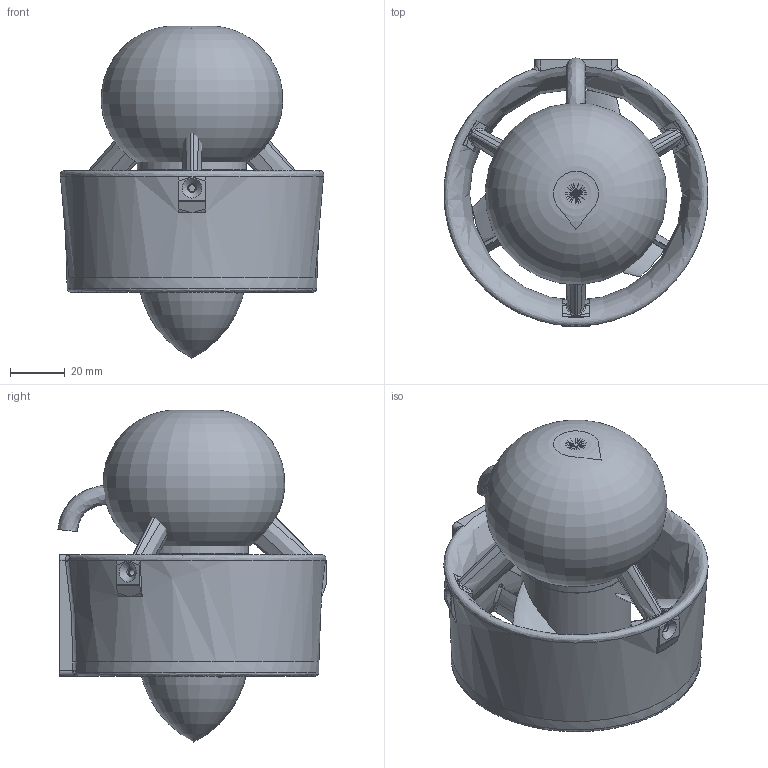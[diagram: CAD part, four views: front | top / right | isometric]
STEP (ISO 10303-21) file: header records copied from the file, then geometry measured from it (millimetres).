
FILE_DESCRIPTION (( 'STEP AP203' ), '1' );
FILE_NAME ('2820蚾饜.STEP', '2025-03-10T06:41:27', ( '' ), ( '' ), 'SwSTEP 2.0', 'SolidWorks 2021', '' );
FILE_SCHEMA (( 'CONFIG_CONTROL_DESIGN' ));
Length unit declared in the file: millimetre
Products named in the file (1): 2820蚾饜
Bounding box: 96.4 x 97.93 x 121.3 mm (x, y, z)
Volume: 160568.2 mm3; surface area: 99608.6 mm2
Topology: 7 solids, 8 shells, 608 faces, 1606 edges, 1019 vertices
Faces by surface type: bspline 200, plane 192, cylinder 169, cone 22, torus 19, sphere 6
Full cylindrical faces by diameter (mm): 2.5 x11, 3.1 x2, 3.2 x11, 4.5 x10, 7 x1, 8 x1, 11.2 x1, 12 x1, 14 x1, 35 x1, 36 x3, 36.5 x1, 37 x1, 40 x4, 40.005 x1
Entity records: 41550 total; most frequent: CARTESIAN_POINT 28821, ORIENTED_EDGE 2922, DIRECTION 2062, EDGE_CURVE 1461, VERTEX_POINT 970, AXIS2_PLACEMENT_3D 810, EDGE_LOOP 747, FACE_OUTER_BOUND 663
